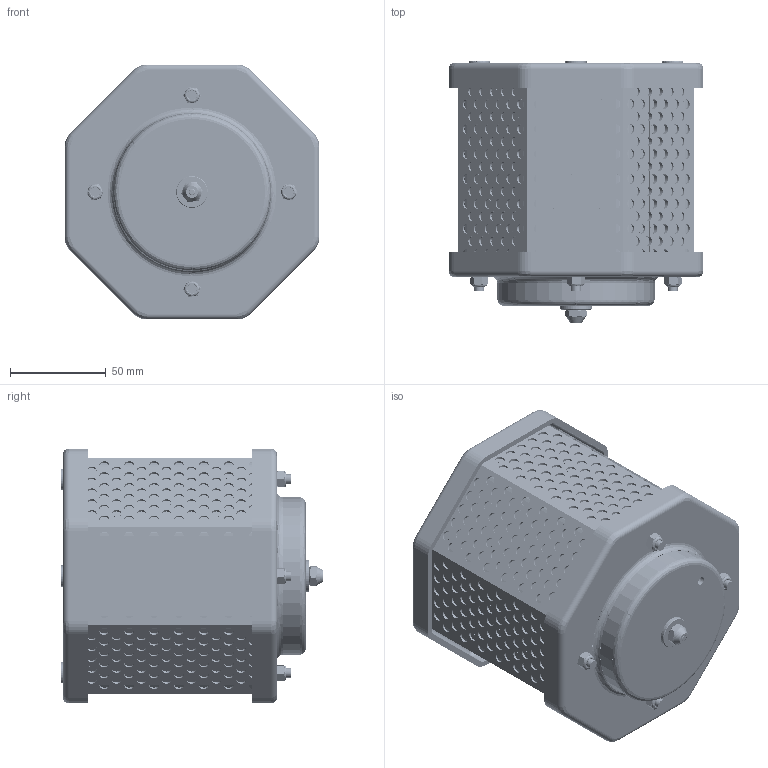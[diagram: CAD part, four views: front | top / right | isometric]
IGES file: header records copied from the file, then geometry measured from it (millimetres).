
Start section: SolidWorks IGES file using analytic representation for surfaces
Global section: file name: G:\Silvent\Ritningar\Övrigt\IGES\Silvent SIS-10.IGS; native system: SolidWorks 2011; preprocessor: SolidWorks 2011; author: silvpesv; date: 120823.113927; units: millimetre
Bounding box: 133 x 136.6 x 133 mm (x, y, z)
Surface area: 183207.2 mm2 (no closed solid volume)
Topology: 0 solids, 0 shells, 1667 faces, 49581 edges, 49213 vertices
Faces by surface type: revolution 1355, bspline 312
